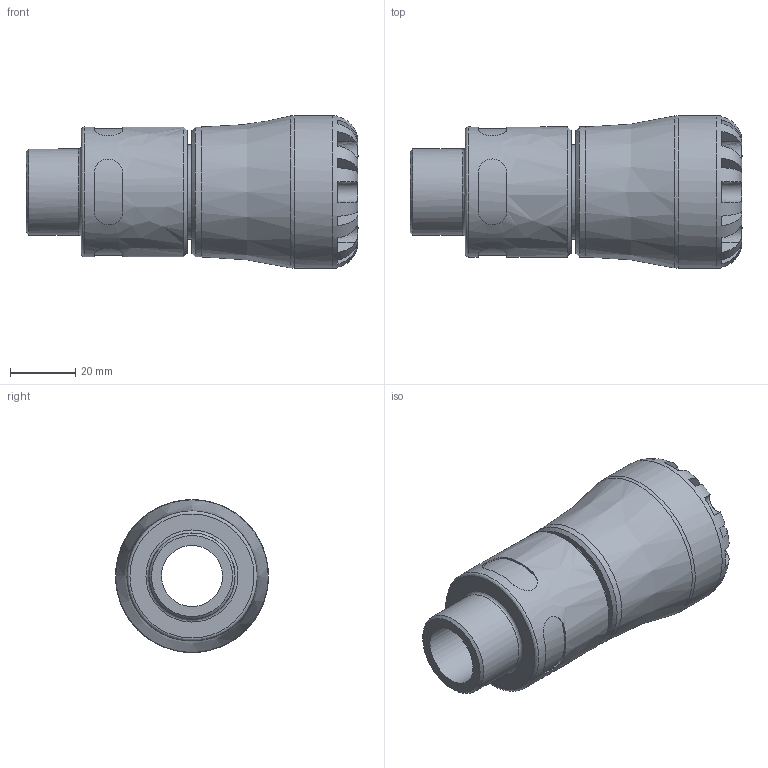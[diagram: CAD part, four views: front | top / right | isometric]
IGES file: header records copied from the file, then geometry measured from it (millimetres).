
Global section: file name: 10N200025007_10N2G0025007; native system: Autodesk Inventor 2019; preprocessor: unknown; author: KIM; date: 20240312.131912; units: millimetre
Bounding box: 102 x 47 x 46.99 mm (x, y, z)
Volume: 86055.6 mm3; surface area: 23738.1 mm2
Topology: 1 solids, 1 shells, 106 faces, 279 edges, 182 vertices
Faces by surface type: bspline 106
